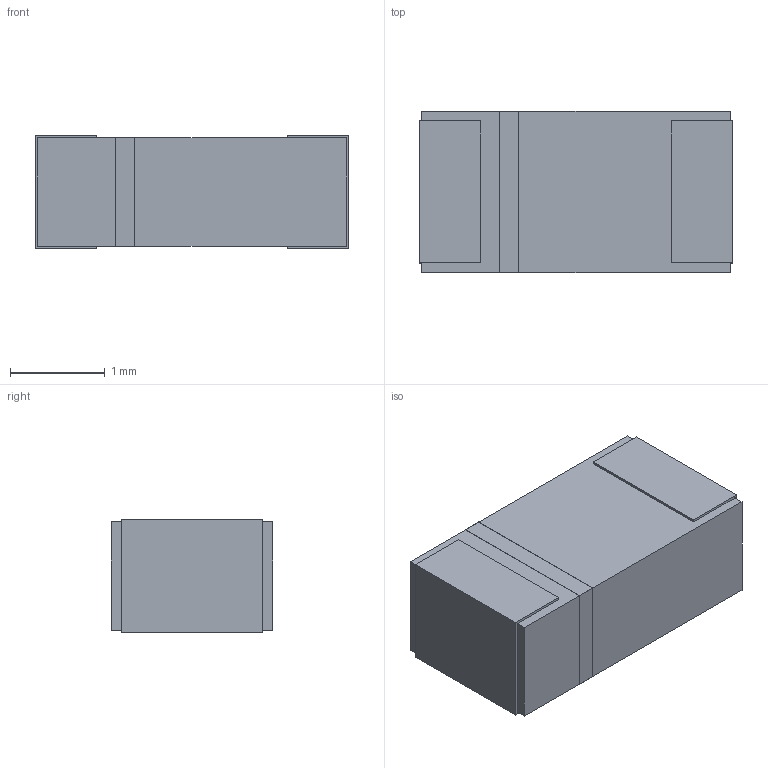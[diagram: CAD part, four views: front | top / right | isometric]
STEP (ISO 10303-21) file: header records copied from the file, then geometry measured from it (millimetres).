
FILE_DESCRIPTION(('STEP AP214'),'1');
FILE_NAME('LED_1206-3216_LTST-C150_LTO','2026-03-29T10:06:42',(''),(''),'','','');
FILE_SCHEMA(('AUTOMOTIVE_DESIGN'));
Length unit declared in the file: millimetre
Products named in the file (1): product
Bounding box: 3.3 x 1.71 x 1.19 mm (x, y, z)
Volume: 6.5 mm3; surface area: 39.7 mm2
Topology: 4 solids, 4 shells, 38 faces, 88 edges, 56 vertices
Faces by surface type: plane 38
Entity records: 1164 total; most frequent: ORIENTED_EDGE 176, DIRECTION 166, CARTESIAN_POINT 95, EDGE_CURVE 88, LINE 88, VECTOR 88, VERTEX_POINT 56, AXIS2_PLACEMENT_3D 39
